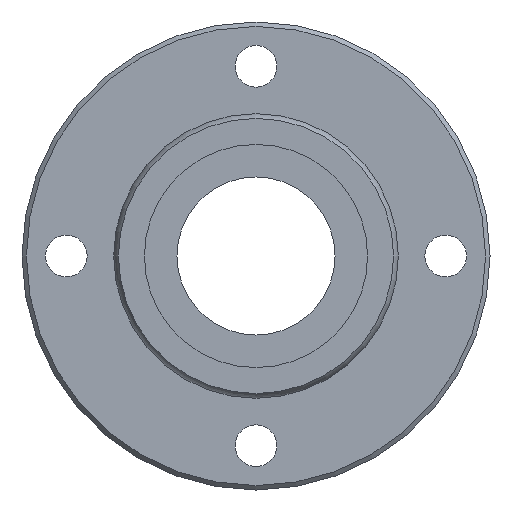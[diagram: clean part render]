
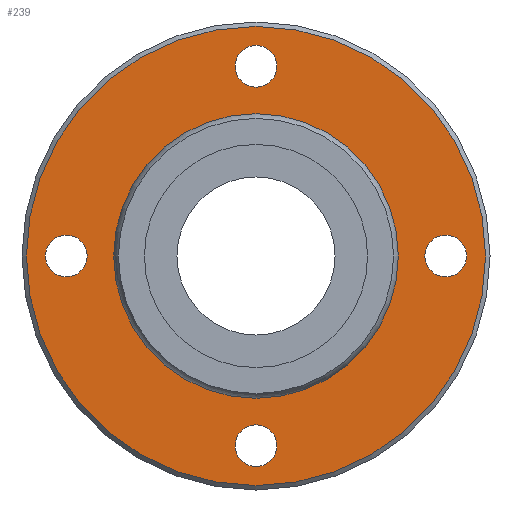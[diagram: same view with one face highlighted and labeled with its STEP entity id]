
A CAD part, left-side view. The second image highlights one B-rep face of the part: STEP entity #239.
In plain terms, the highlighted planar face has unit normal (-1, 0, 0).
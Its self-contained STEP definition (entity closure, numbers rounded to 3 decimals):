
#164=CARTESIAN_POINT('',(15.,0.,36.3));
#165=VERTEX_POINT('',#164);
#166=CARTESIAN_POINT('',(15.,0.0,0.0));
#167=DIRECTION('',(1.0,0.0,0.0));
#168=DIRECTION('',(0.0,0.0,-1.0));
#169=AXIS2_PLACEMENT_3D('',#166,#167,#168);
#170=CIRCLE('',#169,36.3);
#171=EDGE_CURVE('',#165,#165,#170,.T.);
#176=CARTESIAN_POINT('',(15.,0.0,29.563));
#177=DIRECTION('',(-1.0,0.0,0.0));
#178=DIRECTION('',(0.0,0.0,1.0));
#179=AXIS2_PLACEMENT_3D('',#176,#177,#178);
#180=PLANE('',#179);
#181=ORIENTED_EDGE('',*,*,#171,.F.);
#182=EDGE_LOOP('',(#181));
#183=FACE_OUTER_BOUND('',#182,.T.);
#184=CARTESIAN_POINT('',(15.,0.0,22.127));
#185=VERTEX_POINT('',#184);
#186=CARTESIAN_POINT('',(15.0,0.0,0.0));
#187=DIRECTION('',(-1.0,0.0,0.0));
#188=DIRECTION('',(0.0,0.0,1.0));
#189=AXIS2_PLACEMENT_3D('',#186,#187,#188);
#190=CIRCLE('',#189,22.127);
#191=EDGE_CURVE('',#185,#185,#190,.T.);
#192=ORIENTED_EDGE('',*,*,#191,.F.);
#193=EDGE_LOOP('',(#192));
#194=FACE_BOUND('',#193,.T.);
#195=CARTESIAN_POINT('',(15.0,-33.3,0.));
#196=VERTEX_POINT('',#195);
#197=CARTESIAN_POINT('',(15.0,-30.0,0.));
#198=DIRECTION('',(1.0,0.0,0.0));
#199=DIRECTION('',(0.0,1.0,0.0));
#200=AXIS2_PLACEMENT_3D('',#197,#198,#199);
#201=CIRCLE('',#200,3.3);
#202=EDGE_CURVE('',#196,#196,#201,.T.);
#203=ORIENTED_EDGE('',*,*,#202,.T.);
#204=EDGE_LOOP('',(#203));
#205=FACE_BOUND('',#204,.T.);
#206=CARTESIAN_POINT('',(15.0,26.7,0.));
#207=VERTEX_POINT('',#206);
#208=CARTESIAN_POINT('',(15.0,30.0,0.));
#209=DIRECTION('',(1.0,0.0,0.0));
#210=DIRECTION('',(0.0,1.0,0.0));
#211=AXIS2_PLACEMENT_3D('',#208,#209,#210);
#212=CIRCLE('',#211,3.3);
#213=EDGE_CURVE('',#207,#207,#212,.T.);
#214=ORIENTED_EDGE('',*,*,#213,.T.);
#215=EDGE_LOOP('',(#214));
#216=FACE_BOUND('',#215,.T.);
#217=CARTESIAN_POINT('',(15.0,-3.3,30.0));
#218=VERTEX_POINT('',#217);
#219=CARTESIAN_POINT('',(15.0,0.,30.0));
#220=DIRECTION('',(1.0,0.0,0.0));
#221=DIRECTION('',(0.0,1.0,0.0));
#222=AXIS2_PLACEMENT_3D('',#219,#220,#221);
#223=CIRCLE('',#222,3.3);
#224=EDGE_CURVE('',#218,#218,#223,.T.);
#225=ORIENTED_EDGE('',*,*,#224,.T.);
#226=EDGE_LOOP('',(#225));
#227=FACE_BOUND('',#226,.T.);
#228=CARTESIAN_POINT('',(15.0,-3.3,-30.0));
#229=VERTEX_POINT('',#228);
#230=CARTESIAN_POINT('',(15.0,0.,-30.0));
#231=DIRECTION('',(1.0,0.0,0.0));
#232=DIRECTION('',(0.0,1.0,0.0));
#233=AXIS2_PLACEMENT_3D('',#230,#231,#232);
#234=CIRCLE('',#233,3.3);
#235=EDGE_CURVE('',#229,#229,#234,.T.);
#236=ORIENTED_EDGE('',*,*,#235,.T.);
#237=EDGE_LOOP('',(#236));
#238=FACE_BOUND('',#237,.T.);
#239=ADVANCED_FACE('',(#183,#194,#205,#216,#227,#238),#180,.T.);
